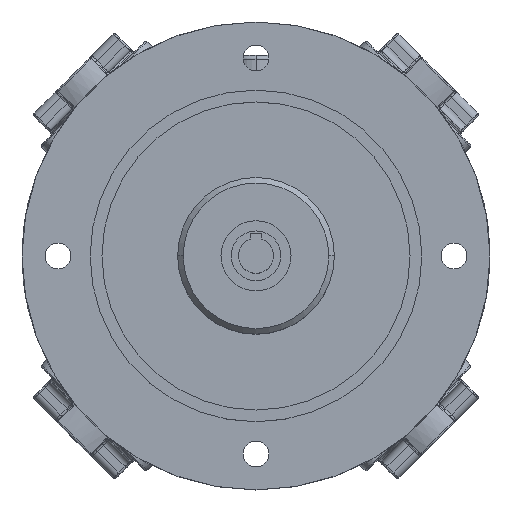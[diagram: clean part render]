
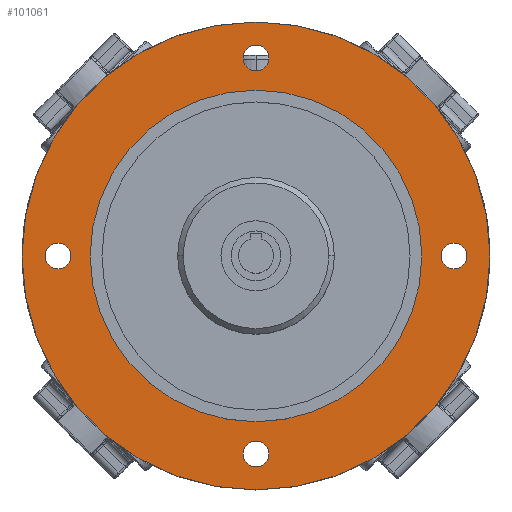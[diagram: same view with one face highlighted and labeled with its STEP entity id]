
A CAD part, top view. The second image highlights one B-rep face of the part: STEP entity #101061.
In plain terms, the highlighted planar face has unit normal (0, 0, 1).
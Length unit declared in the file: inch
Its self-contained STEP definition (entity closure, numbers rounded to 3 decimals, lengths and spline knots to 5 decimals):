
#5353 = EDGE_CURVE ( 'NONE', #5356, #5358, #80114, .T. ) ;
#5356 = VERTEX_POINT ( 'NONE', #80110 ) ;
#5358 = VERTEX_POINT ( 'NONE', #80109 ) ;
#5787 = VERTEX_POINT ( 'NONE', #80725 ) ;
#8067 = VERTEX_POINT ( 'NONE', #27520 ) ;
#8069 = EDGE_CURVE ( 'NONE', #8067, #5787, #27582, .T. ) ;
#10086 = EDGE_CURVE ( 'NONE', #10088, #10096, #45822, .T. ) ;
#10088 = VERTEX_POINT ( 'NONE', #45817 ) ;
#10096 = VERTEX_POINT ( 'NONE', #45812 ) ;
#10100 = VERTEX_POINT ( 'NONE', #45811 ) ;
#10107 = EDGE_CURVE ( 'NONE', #10100, #65565, #45861, .T. ) ;
#10990 = EDGE_CURVE ( 'NONE', #10992, #10994, #53675, .T. ) ;
#10992 = VERTEX_POINT ( 'NONE', #53661 ) ;
#10994 = VERTEX_POINT ( 'NONE', #53660 ) ;
#25742 = CIRCLE ( 'NONE', #25747, 3.54331 ) ;
#25747 = AXIS2_PLACEMENT_3D ( 'NONE', #25806, #25805, #25804 ) ;
#25756 = CARTESIAN_POINT ( 'NONE',  ( -3.54331, 0., -3.66142 ) ) ;
#25804 = DIRECTION ( 'NONE',  ( -1., 0., 0. ) ) ;
#25805 = DIRECTION ( 'NONE',  ( 0., 0., -1. ) ) ;
#25806 = CARTESIAN_POINT ( 'NONE',  ( 0., 0., -3.66142 ) ) ;
#25990 = DIRECTION ( 'NONE',  ( 1., 0., 0. ) ) ;
#25991 = DIRECTION ( 'NONE',  ( 0., 0., -1. ) ) ;
#25992 = CARTESIAN_POINT ( 'NONE',  ( -4.23228, 0., -3.66142 ) ) ;
#25993 = AXIS2_PLACEMENT_3D ( 'NONE', #25992, #25991, #25990 ) ;
#25994 = CIRCLE ( 'NONE', #25993, 0.27559 ) ;
#25995 = DIRECTION ( 'NONE',  ( 1., 0., 0. ) ) ;
#25996 = DIRECTION ( 'NONE',  ( 0., 0., -1. ) ) ;
#25997 = CARTESIAN_POINT ( 'NONE',  ( 0., 4.23228, -3.66142 ) ) ;
#25998 = AXIS2_PLACEMENT_3D ( 'NONE', #25997, #25996, #25995 ) ;
#26003 = CIRCLE ( 'NONE', #25998, 0.27559 ) ;
#26006 = DIRECTION ( 'NONE',  ( 1., 0., 0. ) ) ;
#26007 = DIRECTION ( 'NONE',  ( 0., 0., -1. ) ) ;
#26008 = CARTESIAN_POINT ( 'NONE',  ( 0., -4.23228, -3.66142 ) ) ;
#26009 = AXIS2_PLACEMENT_3D ( 'NONE', #26008, #26007, #26006 ) ;
#26010 = CIRCLE ( 'NONE', #26009, 0.27559 ) ;
#26042 = DIRECTION ( 'NONE',  ( 1., 0., 0. ) ) ;
#26043 = DIRECTION ( 'NONE',  ( 0., 0., -1. ) ) ;
#26044 = CARTESIAN_POINT ( 'NONE',  ( 4.23228, 0., -3.66142 ) ) ;
#26045 = AXIS2_PLACEMENT_3D ( 'NONE', #26044, #26043, #26042 ) ;
#26046 = CIRCLE ( 'NONE', #26045, 0.27559 ) ;
#26052 = DIRECTION ( 'NONE',  ( -1., 0., 0. ) ) ;
#26053 = DIRECTION ( 'NONE',  ( 0., 0., 1. ) ) ;
#26054 = CARTESIAN_POINT ( 'NONE',  ( 0., 0., -3.66142 ) ) ;
#26055 = AXIS2_PLACEMENT_3D ( 'NONE', #26054, #26053, #26052 ) ;
#26061 = CIRCLE ( 'NONE', #26055, 5. ) ;
#26064 = DIRECTION ( 'NONE',  ( -1., 0., 0. ) ) ;
#26065 = DIRECTION ( 'NONE',  ( 0., 0., -1. ) ) ;
#26066 = CARTESIAN_POINT ( 'NONE',  ( 0., 0., -3.66142 ) ) ;
#26067 = AXIS2_PLACEMENT_3D ( 'NONE', #26066, #26065, #26064 ) ;
#26072 = CIRCLE ( 'NONE', #26067, 3.54331 ) ;
#26074 = DIRECTION ( 'NONE',  ( 1., 0., 0. ) ) ;
#26075 = DIRECTION ( 'NONE',  ( 0., 0., 1. ) ) ;
#26076 = AXIS2_PLACEMENT_3D ( 'NONE', #26078, #26075, #26074 ) ;
#26078 = CARTESIAN_POINT ( 'NONE',  ( 0., 3.54331, -3.66142 ) ) ;
#26079 = PLANE ( 'NONE',  #26076 ) ;
#26080 = FACE_BOUND ( 'NONE', #101167, .T. ) ;
#26081 = FACE_BOUND ( 'NONE', #101041, .T. ) ;
#26082 = FACE_BOUND ( 'NONE', #101037, .T. ) ;
#26083 = FACE_BOUND ( 'NONE', #101181, .T. ) ;
#26084 = FACE_BOUND ( 'NONE', #101069, .T. ) ;
#26085 = FACE_OUTER_BOUND ( 'NONE', #101064, .T. ) ;
#27520 = CARTESIAN_POINT ( 'NONE',  ( -3.95669, 0., -3.66142 ) ) ;
#27578 = DIRECTION ( 'NONE',  ( 1., 0., 0. ) ) ;
#27579 = DIRECTION ( 'NONE',  ( 0., 0., -1. ) ) ;
#27580 = CARTESIAN_POINT ( 'NONE',  ( -4.23228, 0., -3.66142 ) ) ;
#27581 = AXIS2_PLACEMENT_3D ( 'NONE', #27580, #27579, #27578 ) ;
#27582 = CIRCLE ( 'NONE', #27581, 0.27559 ) ;
#45811 = CARTESIAN_POINT ( 'NONE',  ( 0.27559, 4.23228, -3.66142 ) ) ;
#45812 = CARTESIAN_POINT ( 'NONE',  ( -0.27559, -4.23228, -3.66142 ) ) ;
#45817 = CARTESIAN_POINT ( 'NONE',  ( 0.27559, -4.23228, -3.66142 ) ) ;
#45818 = DIRECTION ( 'NONE',  ( 1., 0., 0. ) ) ;
#45819 = DIRECTION ( 'NONE',  ( 0., 0., -1. ) ) ;
#45820 = CARTESIAN_POINT ( 'NONE',  ( 0., -4.23228, -3.66142 ) ) ;
#45821 = AXIS2_PLACEMENT_3D ( 'NONE', #45820, #45819, #45818 ) ;
#45822 = CIRCLE ( 'NONE', #45821, 0.27559 ) ;
#45857 = DIRECTION ( 'NONE',  ( 1., 0., 0. ) ) ;
#45858 = DIRECTION ( 'NONE',  ( 0., 0., -1. ) ) ;
#45859 = CARTESIAN_POINT ( 'NONE',  ( 0., 4.23228, -3.66142 ) ) ;
#45860 = AXIS2_PLACEMENT_3D ( 'NONE', #45859, #45858, #45857 ) ;
#45861 = CIRCLE ( 'NONE', #45860, 0.27559 ) ;
#53660 = CARTESIAN_POINT ( 'NONE',  ( -5., 0., -3.66142 ) ) ;
#53661 = CARTESIAN_POINT ( 'NONE',  ( 5., 0., -3.66142 ) ) ;
#53663 = DIRECTION ( 'NONE',  ( -1., 0., 0. ) ) ;
#53664 = DIRECTION ( 'NONE',  ( 0., 0., 1. ) ) ;
#53665 = CARTESIAN_POINT ( 'NONE',  ( 0., 0., -3.66142 ) ) ;
#53666 = AXIS2_PLACEMENT_3D ( 'NONE', #53665, #53664, #53663 ) ;
#53675 = CIRCLE ( 'NONE', #53666, 5. ) ;
#65565 = VERTEX_POINT ( 'NONE', #68774 ) ;
#65568 = VERTEX_POINT ( 'NONE', #68769 ) ;
#68769 = CARTESIAN_POINT ( 'NONE',  ( 3.54331, 0., -3.66142 ) ) ;
#68774 = CARTESIAN_POINT ( 'NONE',  ( -0.27559, 4.23228, -3.66142 ) ) ;
#80070 = CARTESIAN_POINT ( 'NONE',  ( 4.23228, 0., -3.66142 ) ) ;
#80109 = CARTESIAN_POINT ( 'NONE',  ( 3.95669, 0., -3.66142 ) ) ;
#80110 = CARTESIAN_POINT ( 'NONE',  ( 4.50787, 0., -3.66142 ) ) ;
#80111 = DIRECTION ( 'NONE',  ( 1., 0., 0. ) ) ;
#80112 = DIRECTION ( 'NONE',  ( 0., 0., -1. ) ) ;
#80113 = AXIS2_PLACEMENT_3D ( 'NONE', #80070, #80112, #80111 ) ;
#80114 = CIRCLE ( 'NONE', #80113, 0.27559 ) ;
#80725 = CARTESIAN_POINT ( 'NONE',  ( -4.50787, 0., -3.66142 ) ) ;
#96717 = VERTEX_POINT ( 'NONE', #25756 ) ;
#96724 = EDGE_CURVE ( 'NONE', #96717, #65568, #25742, .T. ) ;
#100963 = EDGE_CURVE ( 'NONE', #10096, #10088, #26010, .T. ) ;
#100971 = EDGE_CURVE ( 'NONE', #65565, #10100, #26003, .T. ) ;
#100979 = EDGE_CURVE ( 'NONE', #5787, #8067, #25994, .T. ) ;
#100995 = EDGE_CURVE ( 'NONE', #5358, #5356, #26046, .T. ) ;
#101035 = ORIENTED_EDGE ( 'NONE', *, *, #10107, .T. ) ;
#101036 = ORIENTED_EDGE ( 'NONE', *, *, #100971, .T. ) ;
#101037 = EDGE_LOOP ( 'NONE', ( #101038, #101039 ) ) ;
#101038 = ORIENTED_EDGE ( 'NONE', *, *, #10086, .T. ) ;
#101039 = ORIENTED_EDGE ( 'NONE', *, *, #100963, .T. ) ;
#101041 = EDGE_LOOP ( 'NONE', ( #101043, #101045 ) ) ;
#101043 = ORIENTED_EDGE ( 'NONE', *, *, #5353, .T. ) ;
#101045 = ORIENTED_EDGE ( 'NONE', *, *, #100995, .T. ) ;
#101061 = ADVANCED_FACE ( 'NONE', ( #26085, #26084, #26083, #26082, #26081, #26080 ), #26079, .T. ) ;
#101064 = EDGE_LOOP ( 'NONE', ( #101066, #101174 ) ) ;
#101066 = ORIENTED_EDGE ( 'NONE', *, *, #101115, .T. ) ;
#101069 = EDGE_LOOP ( 'NONE', ( #101176, #101178 ) ) ;
#101102 = EDGE_CURVE ( 'NONE', #65568, #96717, #26072, .T. ) ;
#101115 = EDGE_CURVE ( 'NONE', #10994, #10992, #26061, .T. ) ;
#101167 = EDGE_LOOP ( 'NONE', ( #101169, #101171 ) ) ;
#101169 = ORIENTED_EDGE ( 'NONE', *, *, #8069, .T. ) ;
#101171 = ORIENTED_EDGE ( 'NONE', *, *, #100979, .T. ) ;
#101174 = ORIENTED_EDGE ( 'NONE', *, *, #10990, .T. ) ;
#101176 = ORIENTED_EDGE ( 'NONE', *, *, #96724, .T. ) ;
#101178 = ORIENTED_EDGE ( 'NONE', *, *, #101102, .T. ) ;
#101181 = EDGE_LOOP ( 'NONE', ( #101035, #101036 ) ) ;
